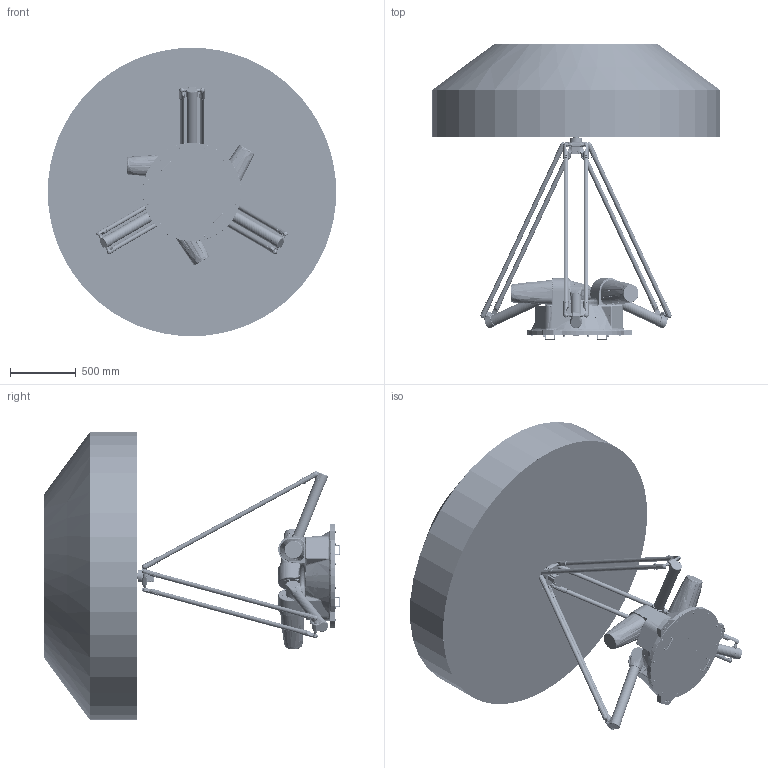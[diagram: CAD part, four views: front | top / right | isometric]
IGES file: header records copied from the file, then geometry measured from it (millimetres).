
Start section: SolidWorks IGES file using analytic representation for surfaces
Global section: file name: X:\03研发部\50-Robot\20-Delta\240-AP25X\10-Design\02-Mechanical\02-FDR 阶段资料\04-对外发布模型\AP25X-2200-1544外发模型\AP25X-2200-1544-T0-V3.0.0.IGS; native system: SolidWorks 2017; preprocessor: SolidWorks 2017; author: 1023; date: 241218.110214; units: millimetre
Bounding box: 2199.92 x 2257 x 2199.92 mm (x, y, z)
Surface area: 16985857.6 mm2 (no closed solid volume)
Topology: 0 solids, 0 shells, 8902 faces, 128265 edges, 127753 vertices
Faces by surface type: bspline 4904, revolution 3998
